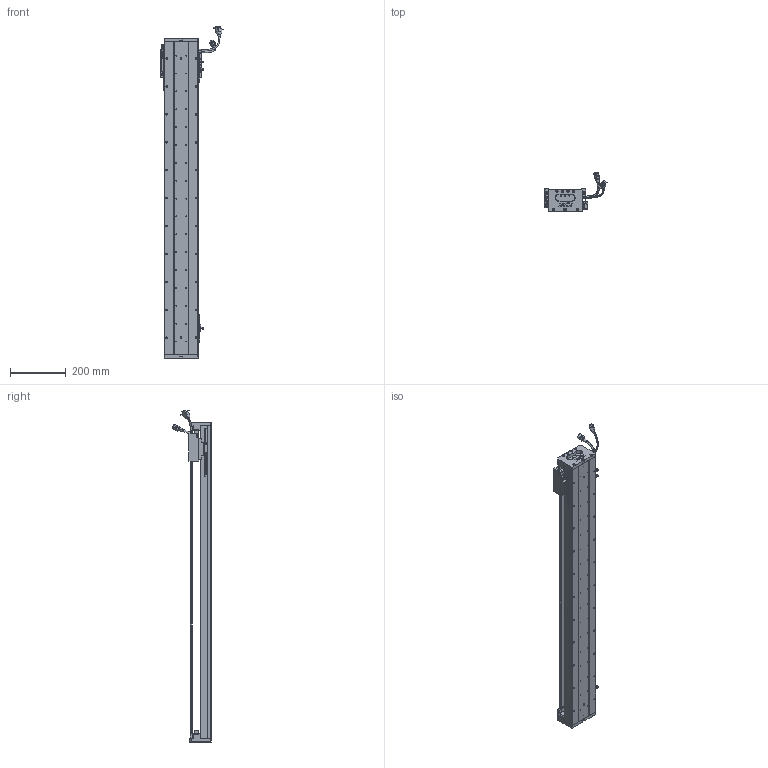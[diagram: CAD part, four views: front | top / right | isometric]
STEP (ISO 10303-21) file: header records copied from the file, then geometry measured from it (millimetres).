
FILE_DESCRIPTION (( 'STEP AP203' ), '1' );
FILE_NAME ('Z1-RY120D-1-L500-B-K.SLDASM_0950.step', '2021-05-17T03:45:55', ( '盈信电脑' ), ( '东莞市道滘镇水果街19号' ), 'SwSTEP 2.0', 'SolidWorks 2016', '' );
FILE_SCHEMA (( 'CONFIG_CONTROL_DESIGN' ));
Length unit declared in the file: millimetre
Products named in the file (37): SCREW-M1.6-1; Z1-RY120铝滑块（21款）; SEAL-Part-1; Z1-RY120-L500詩湍100mm遵_0950; SCREW-M1.7-1; LABEL; 榋妏寠巭燃_暯_M2_2; HARNESS; Z-RY120D詩湍奻揤裔; SCREW-M1.6-3; SCREW-M1.6-2; 120-Z-臏賑輸盄裔(21遴); LABEL-Part-1; Z-RY120D詩湍狟揤裔; HARNESS-Part-2; SCALE-Part-1; SCALE-Part-2; SCREW-M1.7; Z-120詩湍傷裔啣; 覜茼ん672; PSLH080_PSLF2; HARNESS-Part-1; SCREW-M1.6; 672嫖萇羲壽假蚾釱; COVER-Part-1; Z1-RY120-500-倰第菁釱_0950; 080黍杅芛假蚾釱21遴; SHIELDPLATE; SCALE; SEAL; RY100FB-遵嫖萇覜茼え; HOLDER0; PBU_SHEET; 140雄赽晤鎢ん堤盄; COVER; Z1-RY120D-1-L500-B-K.SLDASM_0950; 140蚥薯蝶輸
Assembly tree (43 placements, depth 4):
  Z1-RY120D-1-L500-B-K.SLDASM_0950
    Z1-RY120-500-倰第菁釱_0950
    覜茼ん672  x3
    672嫖萇羲壽假蚾釱  x2
    Z1-RY120铝滑块（21款）
    PSLH080_PSLF2
      SCALE
        SCALE-Part-1
        SCALE-Part-2
      HARNESS
        HARNESS-Part-1
        HARNESS-Part-2
      LABEL
        LABEL-Part-1
      COVER
        COVER-Part-1
      SEAL
        SEAL-Part-1
      榋妏寠巭燃_暯_M2_2
      SHIELDPLATE
      SCREW-M1.7
      SCREW-M1.7-1
      PBU_SHEET
      SCREW-M1.6
      SCREW-M1.6-1
      SCREW-M1.6-2
      SCREW-M1.6-3
      HOLDER0
    080黍杅芛假蚾釱21遴
    120-Z-臏賑輸盄裔(21遴)
    140雄赽晤鎢ん堤盄
    140蚥薯蝶輸  x2
    RY100FB-遵嫖萇覜茼え
    Z-120詩湍傷裔啣  x2
    Z-RY120D詩湍奻揤裔  x2
    Z-RY120D詩湍狟揤裔  x2
    Z1-RY120-L500詩湍100mm遵_0950
Bounding box: 222.87 x 140.94 x 1189 mm (x, y, z)
Volume: 2952800.8 mm3; surface area: 1039437.9 mm2
Topology: 38 solids, 38 shells, 2781 faces, 7562 edges, 4780 vertices
Faces by surface type: cylinder 1270, plane 1119, cone 270, torus 69, bspline 53
Entity records: 84343 total; most frequent: CARTESIAN_POINT 23008, ORIENTED_EDGE 12108, DIRECTION 11748, EDGE_CURVE 6054, AXIS2_PLACEMENT_3D 4278, VERTEX_POINT 3900, VECTOR 3192, LINE 3192
